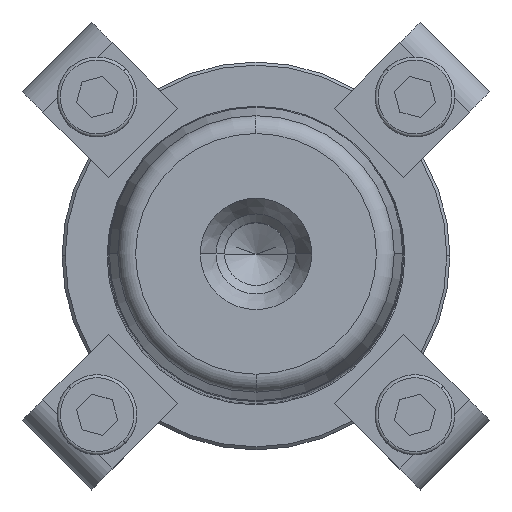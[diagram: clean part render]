
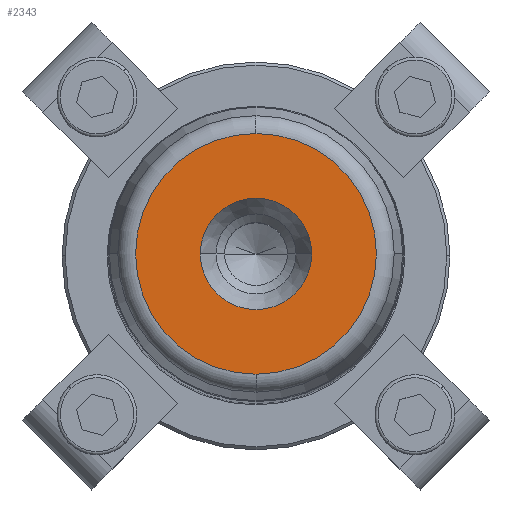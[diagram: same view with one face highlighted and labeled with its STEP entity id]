
A CAD part, top view. The second image highlights one B-rep face of the part: STEP entity #2343.
In plain terms, the highlighted planar face has unit normal (0, 0, 1).
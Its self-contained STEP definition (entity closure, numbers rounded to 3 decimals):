
#431=CARTESIAN_POINT('',(9.05,0.,200.0));
#432=VERTEX_POINT('',#431);
#439=CARTESIAN_POINT('',(-9.05,0.,200.0));
#440=VERTEX_POINT('',#439);
#441=CARTESIAN_POINT('',(0.0,0.,200.0));
#442=DIRECTION('',(0.0,0.0,1.0));
#443=DIRECTION('',(1.0,0.0,0.0));
#444=AXIS2_PLACEMENT_3D('',#441,#442,#443);
#445=CIRCLE('',#444,9.05);
#446=EDGE_CURVE('',#432,#440,#445,.T.);
#463=CARTESIAN_POINT('',(0.0,-19.554,200.));
#464=VERTEX_POINT('',#463);
#474=CARTESIAN_POINT('',(0.,19.554,200.0));
#475=VERTEX_POINT('',#474);
#476=CARTESIAN_POINT('',(0.0,0.,200.0));
#477=DIRECTION('',(0.0,0.0,1.0));
#478=DIRECTION('',(1.0,0.0,0.0));
#479=AXIS2_PLACEMENT_3D('',#476,#477,#478);
#480=CIRCLE('',#479,19.554);
#481=EDGE_CURVE('',#475,#464,#480,.T.);
#2304=CARTESIAN_POINT('',(19.554,0.,200.));
#2305=VERTEX_POINT('',#2304);
#2306=CARTESIAN_POINT('',(0.0,0.,200.0));
#2307=DIRECTION('',(0.0,0.0,1.0));
#2308=DIRECTION('',(1.0,0.0,0.0));
#2309=AXIS2_PLACEMENT_3D('',#2306,#2307,#2308);
#2310=CIRCLE('',#2309,19.554);
#2311=EDGE_CURVE('',#2305,#475,#2310,.T.);
#2313=CARTESIAN_POINT('',(0.0,0.,200.0));
#2314=DIRECTION('',(0.0,0.0,1.0));
#2315=DIRECTION('',(1.0,0.0,0.0));
#2316=AXIS2_PLACEMENT_3D('',#2313,#2314,#2315);
#2317=CIRCLE('',#2316,19.554);
#2318=EDGE_CURVE('',#464,#2305,#2317,.T.);
#2323=CARTESIAN_POINT('',(14.302,0.,200.0));
#2324=DIRECTION('',(0.0,0.0,1.0));
#2325=DIRECTION('',(0.0,-1.0,0.0));
#2326=AXIS2_PLACEMENT_3D('',#2323,#2324,#2325);
#2327=PLANE('',#2326);
#2328=ORIENTED_EDGE('',*,*,#2311,.T.);
#2329=ORIENTED_EDGE('',*,*,#481,.T.);
#2330=ORIENTED_EDGE('',*,*,#2318,.T.);
#2331=EDGE_LOOP('',(#2328,#2329,#2330));
#2332=FACE_OUTER_BOUND('',#2331,.T.);
#2333=ORIENTED_EDGE('',*,*,#446,.F.);
#2334=CARTESIAN_POINT('',(0.0,0.,200.0));
#2335=DIRECTION('',(0.0,0.0,1.0));
#2336=DIRECTION('',(1.0,0.0,0.0));
#2337=AXIS2_PLACEMENT_3D('',#2334,#2335,#2336);
#2338=CIRCLE('',#2337,9.05);
#2339=EDGE_CURVE('',#440,#432,#2338,.T.);
#2340=ORIENTED_EDGE('',*,*,#2339,.F.);
#2341=EDGE_LOOP('',(#2333,#2340));
#2342=FACE_BOUND('',#2341,.T.);
#2343=ADVANCED_FACE('',(#2332,#2342),#2327,.T.);
